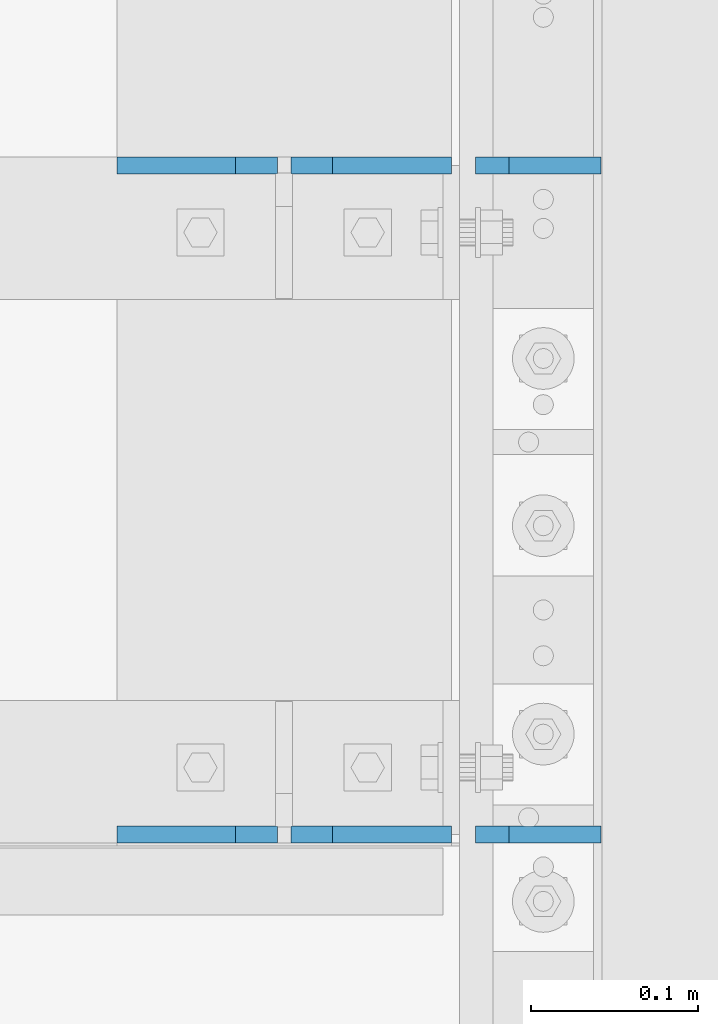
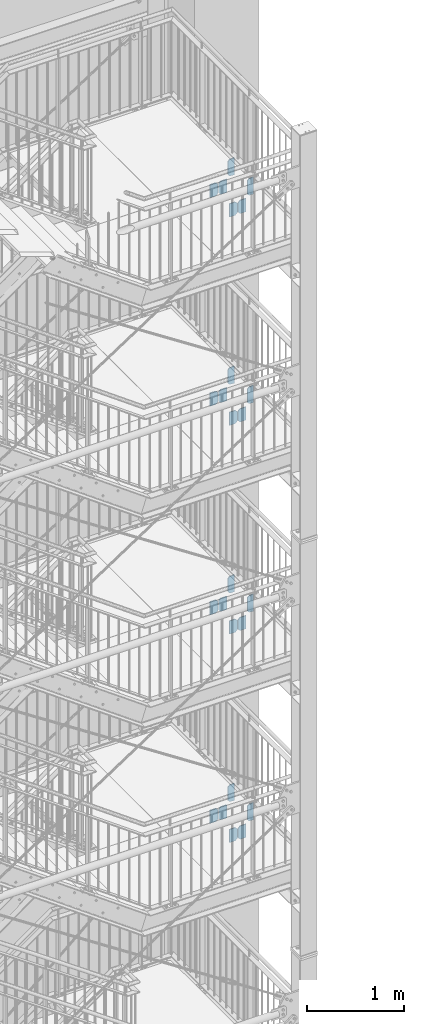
# One storey, part 201 of 825: 24 plates, 48 openings.
"""IFC2X3 building model written with IfcOpenShell, lengths in millimetres."""

from ifc_helpers import new_model, entity, si_unit, converted_unit, frame, origin, origin_with_axes, place, context, project, spatial, polyline, outline, extrude, material, layer, layer_set, element, save


model = new_model("IFC2X3")

# Units and contexts
model_context = context("Model", 3, precision=1e-09, world=origin_with_axes())
ifc_project = project(units=[si_unit("LENGTHUNIT", "METRE", prefix="MILLI"), si_unit("AREAUNIT", "SQUARE_METRE"), si_unit("VOLUMEUNIT", "CUBIC_METRE"), converted_unit("PLANEANGLEUNIT", "DEGREE", entity("IfcPlaneAngleMeasure", 0.01745329), si_unit("PLANEANGLEUNIT", "RADIAN"), dimensions=[0, 0, 0, 0, 0, 0, 0])], contexts=[model_context])

# Site, building, storey
site_placement = place(None, origin_with_axes())
site = spatial("IfcSite", under=ifc_project, at=site_placement, Name="Cnopf'sche Kinderklinik", CompositionType="ELEMENT")
building_placement = place(site_placement, origin_with_axes())
building = spatial("IfcBuilding", under=site, at=building_placement, Name="Struktur 1", CompositionType="ELEMENT")
storey_placement = place(building_placement, origin_with_axes())
storey = spatial("IfcBuildingStorey", under=building, at=storey_placement, Name="Default Storey", CompositionType="ELEMENT", Elevation=0.0)

# Plate, openings
ifc_material = material(Name="S235JR")
ifc_layer = layer(ifc_material, 10.0)
ifc_layer_set = layer_set([ifc_layer], Name="S235JR")
plate_1_placement = place(None, frame((8862.713402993, 6136.736971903, 16105.5000003), z_axis=(0.0, 1.0, 0.0), x_axis=(-1.0, 0.0, 0.0)))
plate_1 = element("IfcPlate", 1, at=plate_1_placement, inside=storey, material=ifc_layer_set, Name="Stiffener#1", ObjectType="Stiffener#1", context=model_context, shape_type="SweptSolid", body=[
    extrude(outline(polyline([(0.0, 0.0), (96.0, 0.0), (96.0, 167.0), (0.0, 167.0), (0.0, 0.0)])), origin_with_axes(), (0.0, 0.0, 1.0), 10.0),
])
opening_1_placement = place(plate_1_placement, frame((0.0, 0.0, -0.01), z_axis=(0.0, 0.0, 1.0), x_axis=(1.0, 0.0, 0.0)))
element("IfcOpeningElement", 2, at=opening_1_placement, cuts=plate_1, ObjectType="Opening", context=model_context, shape_type="SweptSolid", body=[
    extrude(outline(polyline([(0.0, 167.0), (0.0, 142.0), (25.0, 167.0), (0.0, 167.0)])), origin(), (0.0, 0.0, 1.0), 10.02),
])
opening_2_placement = place(plate_1_placement, frame((0.0, 0.0, -0.01), z_axis=(0.0, 0.0, 1.0), x_axis=(1.0, 0.0, 0.0)))
element("IfcOpeningElement", 3, at=opening_2_placement, cuts=plate_1, ObjectType="Opening", context=model_context, shape_type="SweptSolid", body=[
    extrude(outline(polyline([(0.0, 0.0), (25.0, 0.0), (0.0, 25.0), (0.0, 0.0)])), origin(), (0.0, 0.0, 1.0), 10.02),
])

plate_2_placement = place(None, frame((8966.713402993, 6136.736971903, 16105.5000003), z_axis=(0.0, 1.0, 0.0), x_axis=(-1.0, 0.0, 0.0)))
plate_2 = element("IfcPlate", 4, at=plate_2_placement, inside=storey, material=ifc_layer_set, Name="Stiffener#0", ObjectType="Stiffener#0", context=model_context, shape_type="SweptSolid", body=[
    extrude(outline(polyline([(0.0, 0.0), (96.0, 0.0), (96.0, 167.0), (0.0, 167.0), (0.0, 0.0)])), origin_with_axes(), (0.0, 0.0, 1.0), 10.0),
])
opening_3_placement = place(plate_2_placement, frame((0.0, 0.0, -0.01), z_axis=(0.0, 0.0, 1.0), x_axis=(1.0, 0.0, 0.0)))
element("IfcOpeningElement", 5, at=opening_3_placement, cuts=plate_2, ObjectType="Opening", context=model_context, shape_type="SweptSolid", body=[
    extrude(outline(polyline([(96.0, 167.0), (71.0, 167.0), (96.0, 142.0), (96.0, 167.0)])), origin(), (0.0, 0.0, 1.0), 10.02),
])
opening_4_placement = place(plate_2_placement, frame((0.0, 0.0, -0.01), z_axis=(0.0, 0.0, 1.0), x_axis=(1.0, 0.0, 0.0)))
element("IfcOpeningElement", 6, at=opening_4_placement, cuts=plate_2, ObjectType="Opening", context=model_context, shape_type="SweptSolid", body=[
    extrude(outline(polyline([(96.0, 0.0), (96.0, 25.0), (71.0, 0.0), (96.0, 0.0)])), origin(), (0.0, 0.0, 1.0), 10.02),
])

plate_3_placement = place(None, frame((8981.213402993, 5736.736971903, 16506.855162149), z_axis=(0.0, 1.0, 0.0), x_axis=(0.996815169, 0.0, 0.079746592)))
plate_3 = element("IfcPlate", 7, at=plate_3_placement, inside=storey, material=ifc_layer_set, Name="Stiffener#1", ObjectType="Stiffener#1", context=model_context, shape_type="SweptSolid", body=[
    extrude(outline(polyline([(0.0, 0.0), (75.239625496, 0.0), (57.877952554, 217.017159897), (-16.404697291, 205.05517107), (0.0, 0.0)])), origin_with_axes(), (0.0, 0.0, 1.0), 10.0),
])
opening_5_placement = place(plate_3_placement, frame((0.0, 0.0, -0.01), z_axis=(0.0, 0.0, 1.0), x_axis=(1.0, 0.0, 0.0)))
element("IfcOpeningElement", 8, at=opening_5_placement, cuts=plate_3, ObjectType="Opening", context=model_context, shape_type="SweptSolid", body=[
    extrude(outline(polyline([(-16.404697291, 205.05517107), (-14.809765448, 185.118867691), (3.34092195, 208.23487558), (-16.404697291, 205.05517107)])), origin(), (0.0, 0.0, 1.0), 10.02),
])
opening_6_placement = place(plate_3_placement, frame((0.0, 0.0, -0.01), z_axis=(0.0, 0.0, 1.0), x_axis=(1.0, 0.0, 0.0)))
element("IfcOpeningElement", 9, at=opening_6_placement, cuts=plate_3, ObjectType="Opening", context=model_context, shape_type="SweptSolid", body=[
    extrude(outline(polyline([(0.0, 0.0), (20.0, 0.0), (-1.594931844, 19.936303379), (0.0, 0.0)])), origin(), (0.0, 0.0, 1.0), 10.02),
])

plate_4_placement = place(None, frame((8981.213402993, 6136.736971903, 16506.855162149), z_axis=(0.0, 1.0, 0.0), x_axis=(0.996815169, 0.0, 0.079746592)))
plate_4 = element("IfcPlate", 10, at=plate_4_placement, inside=storey, material=ifc_layer_set, Name="Stiffener#1", ObjectType="Stiffener#1", context=model_context, shape_type="SweptSolid", body=[
    extrude(outline(polyline([(0.0, 0.0), (75.239625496, 0.0), (57.877952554, 217.017159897), (-16.404697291, 205.05517107), (0.0, 0.0)])), origin_with_axes(), (0.0, 0.0, 1.0), 10.0),
])
opening_7_placement = place(plate_4_placement, frame((0.0, 0.0, -0.01), z_axis=(0.0, 0.0, 1.0), x_axis=(1.0, 0.0, 0.0)))
element("IfcOpeningElement", 11, at=opening_7_placement, cuts=plate_4, ObjectType="Opening", context=model_context, shape_type="SweptSolid", body=[
    extrude(outline(polyline([(-16.404697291, 205.05517107), (-14.809765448, 185.118867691), (3.34092195, 208.23487558), (-16.404697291, 205.05517107)])), origin(), (0.0, 0.0, 1.0), 10.02),
])
opening_8_placement = place(plate_4_placement, frame((0.0, 0.0, -0.01), z_axis=(0.0, 0.0, 1.0), x_axis=(1.0, 0.0, 0.0)))
element("IfcOpeningElement", 12, at=opening_8_placement, cuts=plate_4, ObjectType="Opening", context=model_context, shape_type="SweptSolid", body=[
    extrude(outline(polyline([(0.0, 0.0), (20.0, 0.0), (-1.594931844, 19.936303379), (0.0, 0.0)])), origin(), (0.0, 0.0, 1.0), 10.02),
])

plate_5_placement = place(None, frame((8862.713402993, 5736.736971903, 16105.5000003), z_axis=(0.0, 1.0, 0.0), x_axis=(-1.0, 0.0, 0.0)))
plate_5 = element("IfcPlate", 13, at=plate_5_placement, inside=storey, material=ifc_layer_set, Name="Stiffener#1", ObjectType="Stiffener#1", context=model_context, shape_type="SweptSolid", body=[
    extrude(outline(polyline([(0.0, 0.0), (96.0, 0.0), (96.0, 167.0), (0.0, 167.0), (0.0, 0.0)])), origin_with_axes(), (0.0, 0.0, 1.0), 10.0),
])
opening_9_placement = place(plate_5_placement, frame((0.0, 0.0, -0.01), z_axis=(0.0, 0.0, 1.0), x_axis=(1.0, 0.0, 0.0)))
element("IfcOpeningElement", 14, at=opening_9_placement, cuts=plate_5, ObjectType="Opening", context=model_context, shape_type="SweptSolid", body=[
    extrude(outline(polyline([(0.0, 167.0), (0.0, 142.0), (25.0, 167.0), (0.0, 167.0)])), origin(), (0.0, 0.0, 1.0), 10.02),
])
opening_10_placement = place(plate_5_placement, frame((0.0, 0.0, -0.01), z_axis=(0.0, 0.0, 1.0), x_axis=(1.0, 0.0, 0.0)))
element("IfcOpeningElement", 15, at=opening_10_placement, cuts=plate_5, ObjectType="Opening", context=model_context, shape_type="SweptSolid", body=[
    extrude(outline(polyline([(0.0, 0.0), (25.0, 0.0), (0.0, 25.0), (0.0, 0.0)])), origin(), (0.0, 0.0, 1.0), 10.02),
])

plate_6_placement = place(None, frame((8966.713402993, 5736.736971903, 16105.5000003), z_axis=(0.0, 1.0, 0.0), x_axis=(-1.0, 0.0, 0.0)))
plate_6 = element("IfcPlate", 16, at=plate_6_placement, inside=storey, material=ifc_layer_set, Name="Stiffener#0", ObjectType="Stiffener#0", context=model_context, shape_type="SweptSolid", body=[
    extrude(outline(polyline([(0.0, 0.0), (96.0, 0.0), (96.0, 167.0), (0.0, 167.0), (0.0, 0.0)])), origin_with_axes(), (0.0, 0.0, 1.0), 10.0),
])
opening_11_placement = place(plate_6_placement, frame((0.0, 0.0, -0.01), z_axis=(0.0, 0.0, 1.0), x_axis=(1.0, 0.0, 0.0)))
element("IfcOpeningElement", 17, at=opening_11_placement, cuts=plate_6, ObjectType="Opening", context=model_context, shape_type="SweptSolid", body=[
    extrude(outline(polyline([(96.0, 167.0), (71.0, 167.0), (96.0, 142.0), (96.0, 167.0)])), origin(), (0.0, 0.0, 1.0), 10.02),
])
opening_12_placement = place(plate_6_placement, frame((0.0, 0.0, -0.01), z_axis=(0.0, 0.0, 1.0), x_axis=(1.0, 0.0, 0.0)))
element("IfcOpeningElement", 18, at=opening_12_placement, cuts=plate_6, ObjectType="Opening", context=model_context, shape_type="SweptSolid", body=[
    extrude(outline(polyline([(96.0, 0.0), (96.0, 25.0), (71.0, 0.0), (96.0, 0.0)])), origin(), (0.0, 0.0, 1.0), 10.02),
])

plate_7_placement = place(None, frame((8862.713402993, 5736.736971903, 13478.0000001), z_axis=(0.0, 1.0, 0.0), x_axis=(-1.0, 0.0, 0.0)))
plate_7 = element("IfcPlate", 19, at=plate_7_placement, inside=storey, material=ifc_layer_set, Name="Stiffener#1", ObjectType="Stiffener#1", context=model_context, shape_type="SweptSolid", body=[
    extrude(outline(polyline([(0.0, 0.0), (96.0, 0.0), (96.0, 167.0), (0.0, 167.0), (0.0, 0.0)])), origin_with_axes(), (0.0, 0.0, 1.0), 10.0),
])
opening_13_placement = place(plate_7_placement, frame((0.0, 0.0, -0.01), z_axis=(0.0, 0.0, 1.0), x_axis=(1.0, 0.0, 0.0)))
element("IfcOpeningElement", 20, at=opening_13_placement, cuts=plate_7, ObjectType="Opening", context=model_context, shape_type="SweptSolid", body=[
    extrude(outline(polyline([(0.0, 167.0), (0.0, 142.0), (25.0, 167.0), (0.0, 167.0)])), origin(), (0.0, 0.0, 1.0), 10.02),
])
opening_14_placement = place(plate_7_placement, frame((0.0, 0.0, -0.01), z_axis=(0.0, 0.0, 1.0), x_axis=(1.0, 0.0, 0.0)))
element("IfcOpeningElement", 21, at=opening_14_placement, cuts=plate_7, ObjectType="Opening", context=model_context, shape_type="SweptSolid", body=[
    extrude(outline(polyline([(0.0, 0.0), (25.0, 0.0), (0.0, 25.0), (0.0, 0.0)])), origin(), (0.0, 0.0, 1.0), 10.02),
])

plate_8_placement = place(None, frame((8966.713402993, 5736.736971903, 13478.0000001), z_axis=(0.0, 1.0, 0.0), x_axis=(-1.0, 0.0, 0.0)))
plate_8 = element("IfcPlate", 22, at=plate_8_placement, inside=storey, material=ifc_layer_set, Name="Stiffener#0", ObjectType="Stiffener#0", context=model_context, shape_type="SweptSolid", body=[
    extrude(outline(polyline([(0.0, 0.0), (96.0, 0.0), (96.0, 167.0), (0.0, 167.0), (0.0, 0.0)])), origin_with_axes(), (0.0, 0.0, 1.0), 10.0),
])
opening_15_placement = place(plate_8_placement, frame((0.0, 0.0, -0.01), z_axis=(0.0, 0.0, 1.0), x_axis=(1.0, 0.0, 0.0)))
element("IfcOpeningElement", 23, at=opening_15_placement, cuts=plate_8, ObjectType="Opening", context=model_context, shape_type="SweptSolid", body=[
    extrude(outline(polyline([(96.0, 167.0), (71.0, 167.0), (96.0, 142.0), (96.0, 167.0)])), origin(), (0.0, 0.0, 1.0), 10.02),
])
opening_16_placement = place(plate_8_placement, frame((0.0, 0.0, -0.01), z_axis=(0.0, 0.0, 1.0), x_axis=(1.0, 0.0, 0.0)))
element("IfcOpeningElement", 24, at=opening_16_placement, cuts=plate_8, ObjectType="Opening", context=model_context, shape_type="SweptSolid", body=[
    extrude(outline(polyline([(96.0, 0.0), (96.0, 25.0), (71.0, 0.0), (96.0, 0.0)])), origin(), (0.0, 0.0, 1.0), 10.02),
])

plate_9_placement = place(None, frame((8981.213402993, 6136.736971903, 13879.355161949), z_axis=(0.0, 1.0, 0.0), x_axis=(0.996815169, 0.0, 0.079746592)))
plate_9 = element("IfcPlate", 25, at=plate_9_placement, inside=storey, material=ifc_layer_set, Name="Stiffener#1", ObjectType="Stiffener#1", context=model_context, shape_type="SweptSolid", body=[
    extrude(outline(polyline([(0.0, 0.0), (75.239625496, 0.0), (57.877952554, 217.017159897), (-16.404697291, 205.05517107), (0.0, 0.0)])), origin_with_axes(), (0.0, 0.0, 1.0), 10.0),
])
opening_17_placement = place(plate_9_placement, frame((0.0, 0.0, -0.01), z_axis=(0.0, 0.0, 1.0), x_axis=(1.0, 0.0, 0.0)))
element("IfcOpeningElement", 26, at=opening_17_placement, cuts=plate_9, ObjectType="Opening", context=model_context, shape_type="SweptSolid", body=[
    extrude(outline(polyline([(-16.404697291, 205.05517107), (-14.809765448, 185.118867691), (3.34092195, 208.23487558), (-16.404697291, 205.05517107)])), origin(), (0.0, 0.0, 1.0), 10.02),
])
opening_18_placement = place(plate_9_placement, frame((0.0, 0.0, -0.01), z_axis=(0.0, 0.0, 1.0), x_axis=(1.0, 0.0, 0.0)))
element("IfcOpeningElement", 27, at=opening_18_placement, cuts=plate_9, ObjectType="Opening", context=model_context, shape_type="SweptSolid", body=[
    extrude(outline(polyline([(0.0, 0.0), (20.0, 0.0), (-1.594931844, 19.936303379), (0.0, 0.0)])), origin(), (0.0, 0.0, 1.0), 10.02),
])

plate_10_placement = place(None, frame((8862.713402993, 6136.736971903, 13478.0000001), z_axis=(0.0, 1.0, 0.0), x_axis=(-1.0, 0.0, 0.0)))
plate_10 = element("IfcPlate", 28, at=plate_10_placement, inside=storey, material=ifc_layer_set, Name="Stiffener#1", ObjectType="Stiffener#1", context=model_context, shape_type="SweptSolid", body=[
    extrude(outline(polyline([(0.0, 0.0), (96.0, 0.0), (96.0, 167.0), (0.0, 167.0), (0.0, 0.0)])), origin_with_axes(), (0.0, 0.0, 1.0), 10.0),
])
opening_19_placement = place(plate_10_placement, frame((0.0, 0.0, -0.01), z_axis=(0.0, 0.0, 1.0), x_axis=(1.0, 0.0, 0.0)))
element("IfcOpeningElement", 29, at=opening_19_placement, cuts=plate_10, ObjectType="Opening", context=model_context, shape_type="SweptSolid", body=[
    extrude(outline(polyline([(0.0, 167.0), (0.0, 142.0), (25.0, 167.0), (0.0, 167.0)])), origin(), (0.0, 0.0, 1.0), 10.02),
])
opening_20_placement = place(plate_10_placement, frame((0.0, 0.0, -0.01), z_axis=(0.0, 0.0, 1.0), x_axis=(1.0, 0.0, 0.0)))
element("IfcOpeningElement", 30, at=opening_20_placement, cuts=plate_10, ObjectType="Opening", context=model_context, shape_type="SweptSolid", body=[
    extrude(outline(polyline([(0.0, 0.0), (25.0, 0.0), (0.0, 25.0), (0.0, 0.0)])), origin(), (0.0, 0.0, 1.0), 10.02),
])

plate_11_placement = place(None, frame((8966.713402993, 6136.736971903, 13478.0000001), z_axis=(0.0, 1.0, 0.0), x_axis=(-1.0, 0.0, 0.0)))
plate_11 = element("IfcPlate", 31, at=plate_11_placement, inside=storey, material=ifc_layer_set, Name="Stiffener#0", ObjectType="Stiffener#0", context=model_context, shape_type="SweptSolid", body=[
    extrude(outline(polyline([(0.0, 0.0), (96.0, 0.0), (96.0, 167.0), (0.0, 167.0), (0.0, 0.0)])), origin_with_axes(), (0.0, 0.0, 1.0), 10.0),
])
opening_21_placement = place(plate_11_placement, frame((0.0, 0.0, -0.01), z_axis=(0.0, 0.0, 1.0), x_axis=(1.0, 0.0, 0.0)))
element("IfcOpeningElement", 32, at=opening_21_placement, cuts=plate_11, ObjectType="Opening", context=model_context, shape_type="SweptSolid", body=[
    extrude(outline(polyline([(96.0, 167.0), (71.0, 167.0), (96.0, 142.0), (96.0, 167.0)])), origin(), (0.0, 0.0, 1.0), 10.02),
])
opening_22_placement = place(plate_11_placement, frame((0.0, 0.0, -0.01), z_axis=(0.0, 0.0, 1.0), x_axis=(1.0, 0.0, 0.0)))
element("IfcOpeningElement", 33, at=opening_22_placement, cuts=plate_11, ObjectType="Opening", context=model_context, shape_type="SweptSolid", body=[
    extrude(outline(polyline([(96.0, 0.0), (96.0, 25.0), (71.0, 0.0), (96.0, 0.0)])), origin(), (0.0, 0.0, 1.0), 10.02),
])

plate_12_placement = place(None, frame((8981.213402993, 5736.736971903, 13879.355161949), z_axis=(0.0, 1.0, 0.0), x_axis=(0.996815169, 0.0, 0.079746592)))
plate_12 = element("IfcPlate", 34, at=plate_12_placement, inside=storey, material=ifc_layer_set, Name="Stiffener#1", ObjectType="Stiffener#1", context=model_context, shape_type="SweptSolid", body=[
    extrude(outline(polyline([(0.0, 0.0), (75.239625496, 0.0), (57.877952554, 217.017159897), (-16.404697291, 205.05517107), (0.0, 0.0)])), origin_with_axes(), (0.0, 0.0, 1.0), 10.0),
])
opening_23_placement = place(plate_12_placement, frame((0.0, 0.0, -0.01), z_axis=(0.0, 0.0, 1.0), x_axis=(1.0, 0.0, 0.0)))
element("IfcOpeningElement", 35, at=opening_23_placement, cuts=plate_12, ObjectType="Opening", context=model_context, shape_type="SweptSolid", body=[
    extrude(outline(polyline([(-16.404697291, 205.05517107), (-14.809765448, 185.118867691), (3.34092195, 208.23487558), (-16.404697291, 205.05517107)])), origin(), (0.0, 0.0, 1.0), 10.02),
])
opening_24_placement = place(plate_12_placement, frame((0.0, 0.0, -0.01), z_axis=(0.0, 0.0, 1.0), x_axis=(1.0, 0.0, 0.0)))
element("IfcOpeningElement", 36, at=opening_24_placement, cuts=plate_12, ObjectType="Opening", context=model_context, shape_type="SweptSolid", body=[
    extrude(outline(polyline([(0.0, 0.0), (20.0, 0.0), (-1.594931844, 19.936303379), (0.0, 0.0)])), origin(), (0.0, 0.0, 1.0), 10.02),
])

plate_13_placement = place(None, frame((8981.213402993, 6136.736971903, 11248.355162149), z_axis=(0.0, 1.0, 0.0), x_axis=(0.996815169, 0.0, 0.079746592)))
plate_13 = element("IfcPlate", 37, at=plate_13_placement, inside=storey, material=ifc_layer_set, Name="Stiffener#1", ObjectType="Stiffener#1", context=model_context, shape_type="SweptSolid", body=[
    extrude(outline(polyline([(0.0, 0.0), (75.239625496, 0.0), (57.877952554, 217.017159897), (-16.404697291, 205.05517107), (0.0, 0.0)])), origin_with_axes(), (0.0, 0.0, 1.0), 10.0),
])
opening_25_placement = place(plate_13_placement, frame((0.0, 0.0, -0.01), z_axis=(0.0, 0.0, 1.0), x_axis=(1.0, 0.0, 0.0)))
element("IfcOpeningElement", 38, at=opening_25_placement, cuts=plate_13, ObjectType="Opening", context=model_context, shape_type="SweptSolid", body=[
    extrude(outline(polyline([(-16.404697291, 205.05517107), (-14.809765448, 185.118867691), (3.34092195, 208.23487558), (-16.404697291, 205.05517107)])), origin(), (0.0, 0.0, 1.0), 10.02),
])
opening_26_placement = place(plate_13_placement, frame((0.0, 0.0, -0.01), z_axis=(0.0, 0.0, 1.0), x_axis=(1.0, 0.0, 0.0)))
element("IfcOpeningElement", 39, at=opening_26_placement, cuts=plate_13, ObjectType="Opening", context=model_context, shape_type="SweptSolid", body=[
    extrude(outline(polyline([(0.0, 0.0), (20.0, 0.0), (-1.594931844, 19.936303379), (0.0, 0.0)])), origin(), (0.0, 0.0, 1.0), 10.02),
])

plate_14_placement = place(None, frame((8862.713402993, 5736.736971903, 10847.0000003), z_axis=(0.0, 1.0, 0.0), x_axis=(-1.0, 0.0, 0.0)))
plate_14 = element("IfcPlate", 40, at=plate_14_placement, inside=storey, material=ifc_layer_set, Name="Stiffener#1", ObjectType="Stiffener#1", context=model_context, shape_type="SweptSolid", body=[
    extrude(outline(polyline([(0.0, 0.0), (96.0, 0.0), (96.0, 167.0), (0.0, 167.0), (0.0, 0.0)])), origin_with_axes(), (0.0, 0.0, 1.0), 10.0),
])
opening_27_placement = place(plate_14_placement, frame((0.0, 0.0, -0.01), z_axis=(0.0, 0.0, 1.0), x_axis=(1.0, 0.0, 0.0)))
element("IfcOpeningElement", 41, at=opening_27_placement, cuts=plate_14, ObjectType="Opening", context=model_context, shape_type="SweptSolid", body=[
    extrude(outline(polyline([(0.0, 167.0), (0.0, 142.0), (25.0, 167.0), (0.0, 167.0)])), origin(), (0.0, 0.0, 1.0), 10.02),
])
opening_28_placement = place(plate_14_placement, frame((0.0, 0.0, -0.01), z_axis=(0.0, 0.0, 1.0), x_axis=(1.0, 0.0, 0.0)))
element("IfcOpeningElement", 42, at=opening_28_placement, cuts=plate_14, ObjectType="Opening", context=model_context, shape_type="SweptSolid", body=[
    extrude(outline(polyline([(0.0, 0.0), (25.0, 0.0), (0.0, 25.0), (0.0, 0.0)])), origin(), (0.0, 0.0, 1.0), 10.02),
])

plate_15_placement = place(None, frame((8966.713402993, 5736.736971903, 10847.0000003), z_axis=(0.0, 1.0, 0.0), x_axis=(-1.0, 0.0, 0.0)))
plate_15 = element("IfcPlate", 43, at=plate_15_placement, inside=storey, material=ifc_layer_set, Name="Stiffener#0", ObjectType="Stiffener#0", context=model_context, shape_type="SweptSolid", body=[
    extrude(outline(polyline([(0.0, 0.0), (96.0, 0.0), (96.0, 167.0), (0.0, 167.0), (0.0, 0.0)])), origin_with_axes(), (0.0, 0.0, 1.0), 10.0),
])
opening_29_placement = place(plate_15_placement, frame((0.0, 0.0, -0.01), z_axis=(0.0, 0.0, 1.0), x_axis=(1.0, 0.0, 0.0)))
element("IfcOpeningElement", 44, at=opening_29_placement, cuts=plate_15, ObjectType="Opening", context=model_context, shape_type="SweptSolid", body=[
    extrude(outline(polyline([(96.0, 167.0), (71.0, 167.0), (96.0, 142.0), (96.0, 167.0)])), origin(), (0.0, 0.0, 1.0), 10.02),
])
opening_30_placement = place(plate_15_placement, frame((0.0, 0.0, -0.01), z_axis=(0.0, 0.0, 1.0), x_axis=(1.0, 0.0, 0.0)))
element("IfcOpeningElement", 45, at=opening_30_placement, cuts=plate_15, ObjectType="Opening", context=model_context, shape_type="SweptSolid", body=[
    extrude(outline(polyline([(96.0, 0.0), (96.0, 25.0), (71.0, 0.0), (96.0, 0.0)])), origin(), (0.0, 0.0, 1.0), 10.02),
])

plate_16_placement = place(None, frame((8981.213402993, 5736.736971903, 11248.355162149), z_axis=(0.0, 1.0, 0.0), x_axis=(0.996815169, 0.0, 0.079746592)))
plate_16 = element("IfcPlate", 46, at=plate_16_placement, inside=storey, material=ifc_layer_set, Name="Stiffener#1", ObjectType="Stiffener#1", context=model_context, shape_type="SweptSolid", body=[
    extrude(outline(polyline([(0.0, 0.0), (75.239625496, 0.0), (57.877952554, 217.017159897), (-16.404697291, 205.05517107), (0.0, 0.0)])), origin_with_axes(), (0.0, 0.0, 1.0), 10.0),
])
opening_31_placement = place(plate_16_placement, frame((0.0, 0.0, -0.01), z_axis=(0.0, 0.0, 1.0), x_axis=(1.0, 0.0, 0.0)))
element("IfcOpeningElement", 47, at=opening_31_placement, cuts=plate_16, ObjectType="Opening", context=model_context, shape_type="SweptSolid", body=[
    extrude(outline(polyline([(-16.404697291, 205.05517107), (-14.809765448, 185.118867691), (3.34092195, 208.23487558), (-16.404697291, 205.05517107)])), origin(), (0.0, 0.0, 1.0), 10.02),
])
opening_32_placement = place(plate_16_placement, frame((0.0, 0.0, -0.01), z_axis=(0.0, 0.0, 1.0), x_axis=(1.0, 0.0, 0.0)))
element("IfcOpeningElement", 48, at=opening_32_placement, cuts=plate_16, ObjectType="Opening", context=model_context, shape_type="SweptSolid", body=[
    extrude(outline(polyline([(0.0, 0.0), (20.0, 0.0), (-1.594931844, 19.936303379), (0.0, 0.0)])), origin(), (0.0, 0.0, 1.0), 10.02),
])

plate_17_placement = place(None, frame((8862.713402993, 6136.736971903, 10847.0000003), z_axis=(0.0, 1.0, 0.0), x_axis=(-1.0, 0.0, 0.0)))
plate_17 = element("IfcPlate", 49, at=plate_17_placement, inside=storey, material=ifc_layer_set, Name="Stiffener#1", ObjectType="Stiffener#1", context=model_context, shape_type="SweptSolid", body=[
    extrude(outline(polyline([(0.0, 0.0), (96.0, 0.0), (96.0, 167.0), (0.0, 167.0), (0.0, 0.0)])), origin_with_axes(), (0.0, 0.0, 1.0), 10.0),
])
opening_33_placement = place(plate_17_placement, frame((0.0, 0.0, -0.01), z_axis=(0.0, 0.0, 1.0), x_axis=(1.0, 0.0, 0.0)))
element("IfcOpeningElement", 50, at=opening_33_placement, cuts=plate_17, ObjectType="Opening", context=model_context, shape_type="SweptSolid", body=[
    extrude(outline(polyline([(0.0, 167.0), (0.0, 142.0), (25.0, 167.0), (0.0, 167.0)])), origin(), (0.0, 0.0, 1.0), 10.02),
])
opening_34_placement = place(plate_17_placement, frame((0.0, 0.0, -0.01), z_axis=(0.0, 0.0, 1.0), x_axis=(1.0, 0.0, 0.0)))
element("IfcOpeningElement", 51, at=opening_34_placement, cuts=plate_17, ObjectType="Opening", context=model_context, shape_type="SweptSolid", body=[
    extrude(outline(polyline([(0.0, 0.0), (25.0, 0.0), (0.0, 25.0), (0.0, 0.0)])), origin(), (0.0, 0.0, 1.0), 10.02),
])

plate_18_placement = place(None, frame((8966.713402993, 6136.736971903, 10847.0000003), z_axis=(0.0, 1.0, 0.0), x_axis=(-1.0, 0.0, 0.0)))
plate_18 = element("IfcPlate", 52, at=plate_18_placement, inside=storey, material=ifc_layer_set, Name="Stiffener#0", ObjectType="Stiffener#0", context=model_context, shape_type="SweptSolid", body=[
    extrude(outline(polyline([(0.0, 0.0), (96.0, 0.0), (96.0, 167.0), (0.0, 167.0), (0.0, 0.0)])), origin_with_axes(), (0.0, 0.0, 1.0), 10.0),
])
opening_35_placement = place(plate_18_placement, frame((0.0, 0.0, -0.01), z_axis=(0.0, 0.0, 1.0), x_axis=(1.0, 0.0, 0.0)))
element("IfcOpeningElement", 53, at=opening_35_placement, cuts=plate_18, ObjectType="Opening", context=model_context, shape_type="SweptSolid", body=[
    extrude(outline(polyline([(96.0, 167.0), (71.0, 167.0), (96.0, 142.0), (96.0, 167.0)])), origin(), (0.0, 0.0, 1.0), 10.02),
])
opening_36_placement = place(plate_18_placement, frame((0.0, 0.0, -0.01), z_axis=(0.0, 0.0, 1.0), x_axis=(1.0, 0.0, 0.0)))
element("IfcOpeningElement", 54, at=opening_36_placement, cuts=plate_18, ObjectType="Opening", context=model_context, shape_type="SweptSolid", body=[
    extrude(outline(polyline([(96.0, 0.0), (96.0, 25.0), (71.0, 0.0), (96.0, 0.0)])), origin(), (0.0, 0.0, 1.0), 10.02),
])

plate_19_placement = place(None, frame((8862.713402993, 5736.736971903, 8217.5), z_axis=(0.0, 1.0, 0.0), x_axis=(-1.0, 0.0, 0.0)))
plate_19 = element("IfcPlate", 55, at=plate_19_placement, inside=storey, material=ifc_layer_set, Name="Stiffener#1", ObjectType="Stiffener#1", context=model_context, shape_type="SweptSolid", body=[
    extrude(outline(polyline([(0.0, 0.0), (96.0, 0.0), (96.0, 167.0), (0.0, 167.0), (0.0, 0.0)])), origin_with_axes(), (0.0, 0.0, 1.0), 10.0),
])
opening_37_placement = place(plate_19_placement, frame((0.0, 0.0, -0.01), z_axis=(0.0, 0.0, 1.0), x_axis=(1.0, 0.0, 0.0)))
element("IfcOpeningElement", 56, at=opening_37_placement, cuts=plate_19, ObjectType="Opening", context=model_context, shape_type="SweptSolid", body=[
    extrude(outline(polyline([(0.0, 167.0), (0.0, 142.0), (25.0, 167.0), (0.0, 167.0)])), origin(), (0.0, 0.0, 1.0), 10.02),
])
opening_38_placement = place(plate_19_placement, frame((0.0, 0.0, -0.01), z_axis=(0.0, 0.0, 1.0), x_axis=(1.0, 0.0, 0.0)))
element("IfcOpeningElement", 57, at=opening_38_placement, cuts=plate_19, ObjectType="Opening", context=model_context, shape_type="SweptSolid", body=[
    extrude(outline(polyline([(0.0, 0.0), (25.0, 0.0), (0.0, 25.0), (0.0, 0.0)])), origin(), (0.0, 0.0, 1.0), 10.02),
])

plate_20_placement = place(None, frame((8966.713402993, 5736.736971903, 8217.5), z_axis=(0.0, 1.0, 0.0), x_axis=(-1.0, 0.0, 0.0)))
plate_20 = element("IfcPlate", 58, at=plate_20_placement, inside=storey, material=ifc_layer_set, Name="Stiffener#0", ObjectType="Stiffener#0", context=model_context, shape_type="SweptSolid", body=[
    extrude(outline(polyline([(0.0, 0.0), (96.0, 0.0), (96.0, 167.0), (0.0, 167.0), (0.0, 0.0)])), origin_with_axes(), (0.0, 0.0, 1.0), 10.0),
])
opening_39_placement = place(plate_20_placement, frame((0.0, 0.0, -0.01), z_axis=(0.0, 0.0, 1.0), x_axis=(1.0, 0.0, 0.0)))
element("IfcOpeningElement", 59, at=opening_39_placement, cuts=plate_20, ObjectType="Opening", context=model_context, shape_type="SweptSolid", body=[
    extrude(outline(polyline([(96.0, 167.0), (71.0, 167.0), (96.0, 142.0), (96.0, 167.0)])), origin(), (0.0, 0.0, 1.0), 10.02),
])
opening_40_placement = place(plate_20_placement, frame((0.0, 0.0, -0.01), z_axis=(0.0, 0.0, 1.0), x_axis=(1.0, 0.0, 0.0)))
element("IfcOpeningElement", 60, at=opening_40_placement, cuts=plate_20, ObjectType="Opening", context=model_context, shape_type="SweptSolid", body=[
    extrude(outline(polyline([(96.0, 0.0), (96.0, 25.0), (71.0, 0.0), (96.0, 0.0)])), origin(), (0.0, 0.0, 1.0), 10.02),
])

plate_21_placement = place(None, frame((8862.713402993, 6136.736971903, 8217.5), z_axis=(0.0, 1.0, 0.0), x_axis=(-1.0, 0.0, 0.0)))
plate_21 = element("IfcPlate", 61, at=plate_21_placement, inside=storey, material=ifc_layer_set, Name="Stiffener#1", ObjectType="Stiffener#1", context=model_context, shape_type="SweptSolid", body=[
    extrude(outline(polyline([(0.0, 0.0), (96.0, 0.0), (96.0, 167.0), (0.0, 167.0), (0.0, 0.0)])), origin_with_axes(), (0.0, 0.0, 1.0), 10.0),
])
opening_41_placement = place(plate_21_placement, frame((0.0, 0.0, -0.01), z_axis=(0.0, 0.0, 1.0), x_axis=(1.0, 0.0, 0.0)))
element("IfcOpeningElement", 62, at=opening_41_placement, cuts=plate_21, ObjectType="Opening", context=model_context, shape_type="SweptSolid", body=[
    extrude(outline(polyline([(0.0, 167.0), (0.0, 142.0), (25.0, 167.0), (0.0, 167.0)])), origin(), (0.0, 0.0, 1.0), 10.02),
])
opening_42_placement = place(plate_21_placement, frame((0.0, 0.0, -0.01), z_axis=(0.0, 0.0, 1.0), x_axis=(1.0, 0.0, 0.0)))
element("IfcOpeningElement", 63, at=opening_42_placement, cuts=plate_21, ObjectType="Opening", context=model_context, shape_type="SweptSolid", body=[
    extrude(outline(polyline([(0.0, 0.0), (25.0, 0.0), (0.0, 25.0), (0.0, 0.0)])), origin(), (0.0, 0.0, 1.0), 10.02),
])

plate_22_placement = place(None, frame((8966.713402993, 6136.736971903, 8217.5), z_axis=(0.0, 1.0, 0.0), x_axis=(-1.0, 0.0, 0.0)))
plate_22 = element("IfcPlate", 64, at=plate_22_placement, inside=storey, material=ifc_layer_set, Name="Stiffener#0", ObjectType="Stiffener#0", context=model_context, shape_type="SweptSolid", body=[
    extrude(outline(polyline([(0.0, 0.0), (96.0, 0.0), (96.0, 167.0), (0.0, 167.0), (0.0, 0.0)])), origin_with_axes(), (0.0, 0.0, 1.0), 10.0),
])
opening_43_placement = place(plate_22_placement, frame((0.0, 0.0, -0.01), z_axis=(0.0, 0.0, 1.0), x_axis=(1.0, 0.0, 0.0)))
element("IfcOpeningElement", 65, at=opening_43_placement, cuts=plate_22, ObjectType="Opening", context=model_context, shape_type="SweptSolid", body=[
    extrude(outline(polyline([(96.0, 167.0), (71.0, 167.0), (96.0, 142.0), (96.0, 167.0)])), origin(), (0.0, 0.0, 1.0), 10.02),
])
opening_44_placement = place(plate_22_placement, frame((0.0, 0.0, -0.01), z_axis=(0.0, 0.0, 1.0), x_axis=(1.0, 0.0, 0.0)))
element("IfcOpeningElement", 66, at=opening_44_placement, cuts=plate_22, ObjectType="Opening", context=model_context, shape_type="SweptSolid", body=[
    extrude(outline(polyline([(96.0, 0.0), (96.0, 25.0), (71.0, 0.0), (96.0, 0.0)])), origin(), (0.0, 0.0, 1.0), 10.02),
])

plate_23_placement = place(None, frame((8981.213402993, 6136.736971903, 8618.855161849), z_axis=(0.0, 1.0, 0.0), x_axis=(0.996815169, 0.0, 0.079746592)))
plate_23 = element("IfcPlate", 67, at=plate_23_placement, inside=storey, material=ifc_layer_set, Name="Stiffener#1", ObjectType="Stiffener#1", context=model_context, shape_type="SweptSolid", body=[
    extrude(outline(polyline([(0.0, 0.0), (75.239625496, 0.0), (57.877952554, 217.017159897), (-16.404697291, 205.05517107), (0.0, 0.0)])), origin_with_axes(), (0.0, 0.0, 1.0), 10.0),
])
opening_45_placement = place(plate_23_placement, frame((0.0, 0.0, -0.01), z_axis=(0.0, 0.0, 1.0), x_axis=(1.0, 0.0, 0.0)))
element("IfcOpeningElement", 68, at=opening_45_placement, cuts=plate_23, ObjectType="Opening", context=model_context, shape_type="SweptSolid", body=[
    extrude(outline(polyline([(-16.404697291, 205.05517107), (-14.809765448, 185.118867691), (3.34092195, 208.23487558), (-16.404697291, 205.05517107)])), origin(), (0.0, 0.0, 1.0), 10.02),
])
opening_46_placement = place(plate_23_placement, frame((0.0, 0.0, -0.01), z_axis=(0.0, 0.0, 1.0), x_axis=(1.0, 0.0, 0.0)))
element("IfcOpeningElement", 69, at=opening_46_placement, cuts=plate_23, ObjectType="Opening", context=model_context, shape_type="SweptSolid", body=[
    extrude(outline(polyline([(0.0, 0.0), (20.0, 0.0), (-1.594931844, 19.936303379), (0.0, 0.0)])), origin(), (0.0, 0.0, 1.0), 10.02),
])

plate_24_placement = place(None, frame((8981.213402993, 5736.736971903, 8618.855161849), z_axis=(0.0, 1.0, 0.0), x_axis=(0.996815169, 0.0, 0.079746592)))
plate_24 = element("IfcPlate", 70, at=plate_24_placement, inside=storey, material=ifc_layer_set, Name="Stiffener#1", ObjectType="Stiffener#1", context=model_context, shape_type="SweptSolid", body=[
    extrude(outline(polyline([(0.0, 0.0), (75.239625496, 0.0), (57.877952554, 217.017159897), (-16.404697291, 205.05517107), (0.0, 0.0)])), origin_with_axes(), (0.0, 0.0, 1.0), 10.0),
])
opening_47_placement = place(plate_24_placement, frame((0.0, 0.0, -0.01), z_axis=(0.0, 0.0, 1.0), x_axis=(1.0, 0.0, 0.0)))
element("IfcOpeningElement", 71, at=opening_47_placement, cuts=plate_24, ObjectType="Opening", context=model_context, shape_type="SweptSolid", body=[
    extrude(outline(polyline([(-16.404697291, 205.05517107), (-14.809765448, 185.118867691), (3.34092195, 208.23487558), (-16.404697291, 205.05517107)])), origin(), (0.0, 0.0, 1.0), 10.02),
])
opening_48_placement = place(plate_24_placement, frame((0.0, 0.0, -0.01), z_axis=(0.0, 0.0, 1.0), x_axis=(1.0, 0.0, 0.0)))
element("IfcOpeningElement", 72, at=opening_48_placement, cuts=plate_24, ObjectType="Opening", context=model_context, shape_type="SweptSolid", body=[
    extrude(outline(polyline([(0.0, 0.0), (20.0, 0.0), (-1.594931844, 19.936303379), (0.0, 0.0)])), origin(), (0.0, 0.0, 1.0), 10.02),
])

save(model, "model.ifc")
